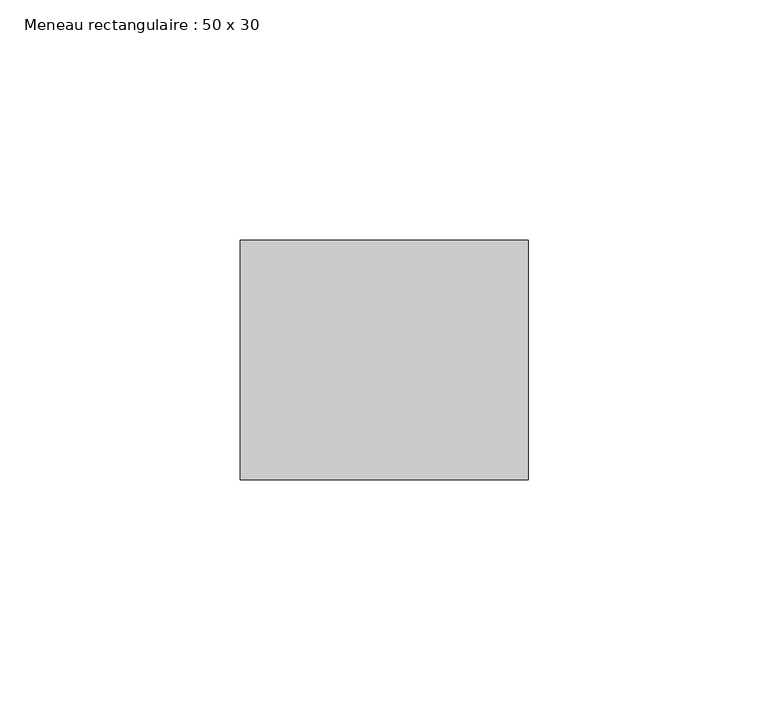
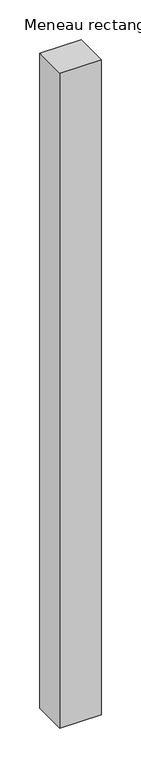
"""IFC4 building model written with IfcOpenShell, lengths in millimetres: member geometry, Meneau rectangulaire : 50 x 30."""

from ifc_helpers import new_model, si_unit, frame, origin, place, context, project, spatial, polyline, outline, extrude, source, transform, mapped, element, save


def meneau_rectangulaire_50_x_30_d35262c2(model_context):
    return source(origin(), model_context, "Body", "SweptSolid", [
        extrude(outline(polyline([(0.0, 0.0), (0.0, -50.0), (-60.0, -50.0), (-60.0, 0.0), (0.0, 0.0)])), frame((0.0, 0.0, -1004.7450745), z_axis=(0.0, 0.0, 1.0), x_axis=(1.0, 0.0, 0.0)), (0.0, 0.0, 1.0), 1004.7450745),
    ])


if __name__ == "__main__":
    model = new_model("IFC4")
    model_context = context("Model", 3, world=origin())
    ifc_project = project(units=[si_unit("LENGTHUNIT", "METRE", prefix="MILLI")], contexts=[model_context])
    site = spatial("IfcSite", under=ifc_project)
    building = spatial("IfcBuilding", under=site)
    placement = place(None, origin())
    meneau_rectangulaire_50_x_30_shape = meneau_rectangulaire_50_x_30_d35262c2(model_context)
    element("IfcMember", 1, ObjectType="Meneau rectangulaire : 50 x 30", at=placement, inside=building, context=model_context, shape_type="MappedRepresentation", body=[
        mapped(meneau_rectangulaire_50_x_30_shape, transform((0.0, 0.0, 0.0), x_axis=(1.0, 0.0, 0.0), y_axis=(0.0, 1.0, 0.0), z_axis=(0.0, 0.0, 1.0))),
    ])
    save(model, "model.ifc")
